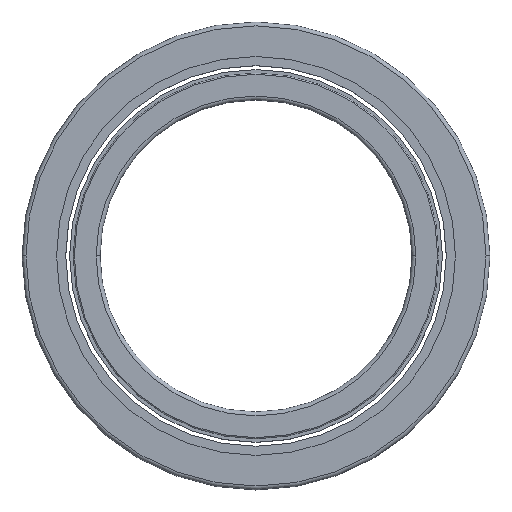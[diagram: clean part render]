
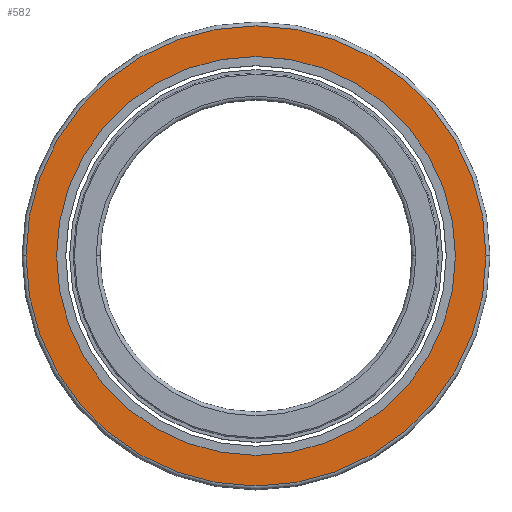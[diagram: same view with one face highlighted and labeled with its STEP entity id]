
A CAD part, top view. The second image highlights one B-rep face of the part: STEP entity #582.
In plain terms, the highlighted planar face has unit normal (0, 0, 1).
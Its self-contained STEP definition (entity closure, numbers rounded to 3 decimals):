
#55=CARTESIAN_POINT('',(0.,0.,8.));
#56=DIRECTION('',(0.,0.,1.));
#57=DIRECTION('',(-1.,0.,0.));
#58=AXIS2_PLACEMENT_3D('',#55,#56,#57);
#64=CARTESIAN_POINT('',(0.,0.,8.));
#65=DIRECTION('',(0.,0.,-1.));
#66=DIRECTION('',(-1.,0.,0.));
#67=AXIS2_PLACEMENT_3D('',#64,#65,#66);
#73=CARTESIAN_POINT('',(0.,0.,8.));
#74=DIRECTION('',(0.,0.,1.));
#75=DIRECTION('',(-1.,0.,0.));
#76=AXIS2_PLACEMENT_3D('',#73,#74,#75);
#78=CARTESIAN_POINT('',(0.,0.,8.));
#79=DIRECTION('',(0.,0.,-1.));
#80=DIRECTION('',(-1.,0.,0.));
#81=AXIS2_PLACEMENT_3D('',#78,#79,#80);
#379=CARTESIAN_POINT('',(-59.,0.,8.));
#380=VERTEX_POINT('',#379);
#381=CARTESIAN_POINT('',(-51.15,0.,8.));
#383=VERTEX_POINT('',#381);
#421=CARTESIAN_POINT('',(59.,0.,8.));
#422=VERTEX_POINT('',#421);
#423=CARTESIAN_POINT('',(51.15,0.,8.));
#425=VERTEX_POINT('',#423);
#567=CARTESIAN_POINT('',(0.,0.,8.));
#568=DIRECTION('',(0.,0.,1.));
#569=DIRECTION('',(-1.,0.,0.));
#570=AXIS2_PLACEMENT_3D('',#567,#568,#569);
#571=PLANE('',#570);
#573=ORIENTED_EDGE('',*,*,#572,.F.);
#575=ORIENTED_EDGE('',*,*,#574,.T.);
#576=EDGE_LOOP('',(#573,#575));
#577=FACE_OUTER_BOUND('',#576,.F.);
#578=ORIENTED_EDGE('',*,*,#553,.F.);
#579=ORIENTED_EDGE('',*,*,#535,.T.);
#580=EDGE_LOOP('',(#578,#579));
#581=FACE_BOUND('',#580,.F.);
#59=CIRCLE('',#58,51.15);
#68=CIRCLE('',#67,51.15);
#77=CIRCLE('',#76,59.);
#82=CIRCLE('',#81,59.);
#535=EDGE_CURVE('',#383,#425,#59,.T.);
#553=EDGE_CURVE('',#383,#425,#68,.T.);
#572=EDGE_CURVE('',#380,#422,#77,.T.);
#574=EDGE_CURVE('',#380,#422,#82,.T.);
#582=ADVANCED_FACE('',(#577,#581),#571,.T.);
